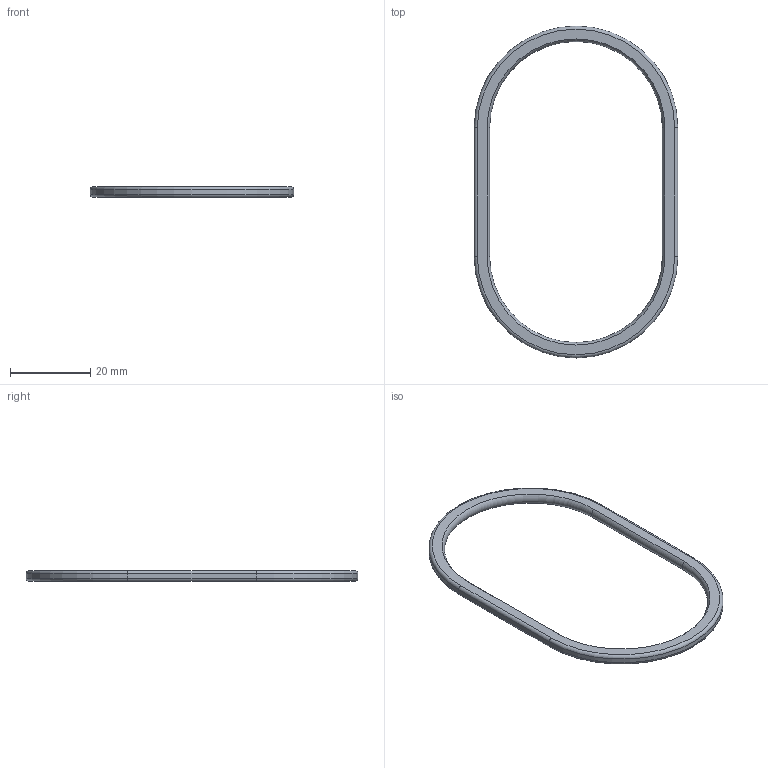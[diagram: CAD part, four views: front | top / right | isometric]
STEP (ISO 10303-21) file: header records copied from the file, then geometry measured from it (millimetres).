
FILE_DESCRIPTION(/* description */ (''),/* implementation_level */ '2;1');
FILE_NAME(/* name */ '',/* time_stamp */ '2026-08-26T18:21:28+09:00',/* author */ ('jhkim'),/* organization */ (''),/* preprocessor_version */ 'ST-DEVELOPER v20.1',/* originating_system */ 'Autodesk Inventor 2027',/* authorisation */ '');
FILE_SCHEMA (('AUTOMOTIVE_DESIGN { 1 0 10303 214 3 1 1 }'));
Length unit declared in the file: millimetre
Products named in the file (1): 실링
Bounding box: 50.8 x 82.8 x 2.7 mm (x, y, z)
Volume: 2037.9 mm3; surface area: 2444.8 mm2
Topology: 1 solids, 1 shells, 18 faces, 40 edges, 24 vertices
Faces by surface type: cylinder 8, torus 6, plane 4
Entity records: 551 total; most frequent: DIRECTION 102, CARTESIAN_POINT 83, ORIENTED_EDGE 80, AXIS2_PLACEMENT_3D 43, EDGE_CURVE 40, CIRCLE 24, VERTEX_POINT 24, EDGE_LOOP 20
